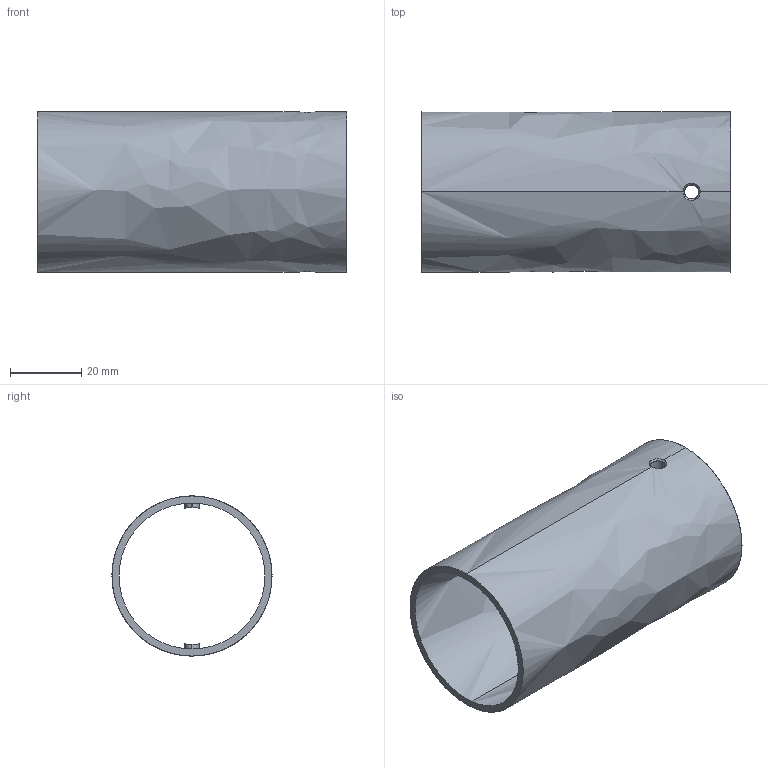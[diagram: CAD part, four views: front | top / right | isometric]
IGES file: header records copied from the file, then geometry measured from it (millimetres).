
Start section: SolidWorks IGES file using analytic representation for surfaces
Global section: file name: \\Kikaku_server01\kikaku\; native system: Rhinoceros ( Feb 22 2008 ); preprocessor: Trout Lake IGES 012 Feb 22 2008; date: 080924.000943; units: millimetre
Bounding box: 87 x 45 x 45 mm (x, y, z)
Surface area: 12891.4 mm2 (no closed solid volume)
Topology: 0 solids, 0 shells, 12 faces, 305 edges, 305 vertices
Faces by surface type: bspline 12
